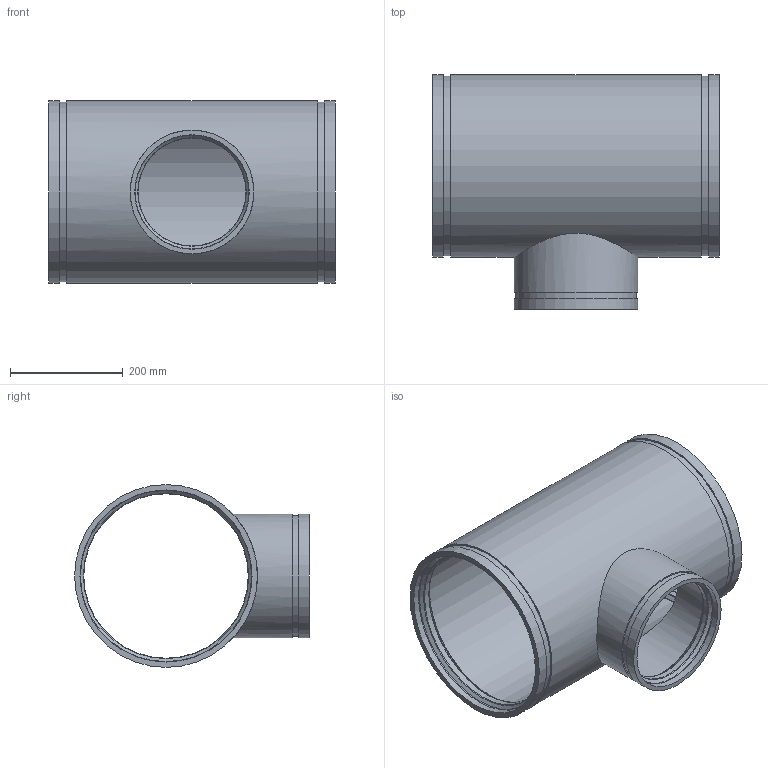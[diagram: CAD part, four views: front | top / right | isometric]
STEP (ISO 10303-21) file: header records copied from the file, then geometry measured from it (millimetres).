
FILE_DESCRIPTION(/* description */ ('VIC REDUCING TEE No 425H-SS','CAx-IF Rec.Pracs.---Representation and Presentation of Product Manufacturing Information (PMI)---4.0---2014-10-13'),/* implementation_level */ '2;1');
FILE_NAME(/* name */ 'C:\Users\kkamble\AppData\Roaming\Autodesk\ApplicationPlugins\Back Up\Victaulic_SS-OGS_Tee Reducing_Sched 40S_No 425H SS (OGS)\Victaulic_SS-OGS_Tee Reducing_Sched 40S_No 425H SS (OGS)_12.0x08.0 (300x200).stp',/* time_stamp */ '2020-08-27T17:20:37+06:00',/* author */ ('CORINNE GRAY'),/* organization */ ('Victaulic'),/* preprocessor_version */ 'ST-DEVELOPER v17.2',/* originating_system */ 'Autodesk Inventor 2019',/* authorisation */ '');
FILE_SCHEMA (('AP242_MANAGED_MODEL_BASED_3D_ENGINEERING_MIM_LF { 1 0 10303 442 1 1 4 }'));
Length unit declared in the file: inch
Products named in the file (1): 425H SS-12.0x08.0
Bounding box: 508 x 415.93 x 323.85 mm (x, y, z)
Volume: 5269936.2 mm3; surface area: 1131013.3 mm2
Topology: 1 solids, 1 shells, 43 faces, 134 edges, 100 vertices
Faces by surface type: cylinder 16, torus 12, plane 9, cone 6
Full cylindrical faces by diameter (mm): 190.983 x1, 202.692 x2, 214.401 x1, 219.075 x2, 291.313 x2, 304.8 x3, 318.287 x2, 323.85 x3
Entity records: 1927 total; most frequent: CARTESIAN_POINT 435, DIRECTION 352, ORIENTED_EDGE 268, AXIS2_PLACEMENT_3D 165, EDGE_CURVE 134, CIRCLE 108, VERTEX_POINT 100, EDGE_LOOP 54
